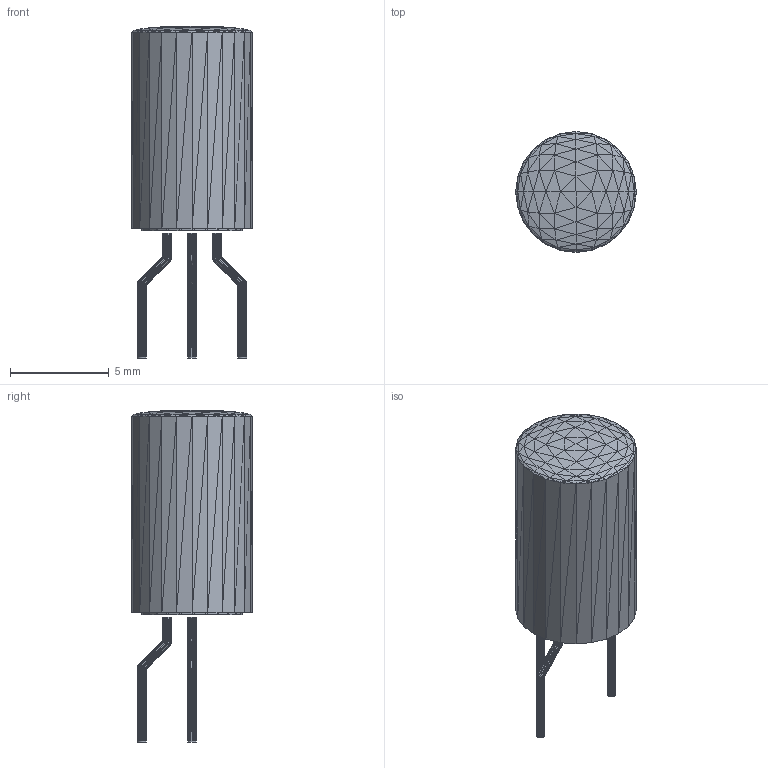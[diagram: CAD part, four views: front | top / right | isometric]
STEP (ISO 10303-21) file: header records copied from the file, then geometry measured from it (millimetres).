
FILE_DESCRIPTION(('HOOPS Exchange Step'),'2;1');
FILE_NAME('***.stp');
FILE_SCHEMA( ('AP242_MANAGED_MODEL_BASED_3D_ENGINEERING_MIM_LF {1 0 10303 442 1 1 4 }') );
Length unit declared in the file: inch
Products named in the file (27): TO-1_2; TO-1_3; TO-1_4; TO-1_5; TO-1_6; TO-1_7; TO-1_8; TO-1_9; TO-1_10; TO-1_11; TO-1_12; TO-1_13; TO-1_14; TO-1_15; TO-1_16; TO-1_17; TO-1_18; TO-1_19; TO-1_20; TO-1_21; TO-1_22; TO-1_23; TO-1_24; TO-1_25; TO-1_26; TO-1_27; TO-1
Assembly tree (26 placements, depth 2):
  TO-1
    TO-1_2
    TO-1_3
    TO-1_4
    TO-1_5
    TO-1_6
    TO-1_7
    TO-1_8
    TO-1_9
    TO-1_10
    TO-1_11
    TO-1_12
    TO-1_13
    TO-1_14
    TO-1_15
    TO-1_16
    TO-1_17
    TO-1_18
    TO-1_19
    TO-1_20
    TO-1_21
    TO-1_22
    TO-1_23
    TO-1_24
    TO-1_25
    TO-1_26
    TO-1_27
Bounding box: 6.1 x 6.1 x 16.77 mm (x, y, z)
Volume: 12.9 mm3; surface area: 389.4 mm2
Topology: 10 solids, 26 shells, 3072 faces, 4800 edges, 1764 vertices
Faces by surface type: plane 3072
Entity records: 62503 total; most frequent: DIRECTION 11052, CARTESIAN_POINT 9690, ORIENTED_EDGE 9216, VECTOR 4800, LINE 4800, EDGE_CURVE 4800, AXIS2_PLACEMENT_3D 3126, PLANE 3072
